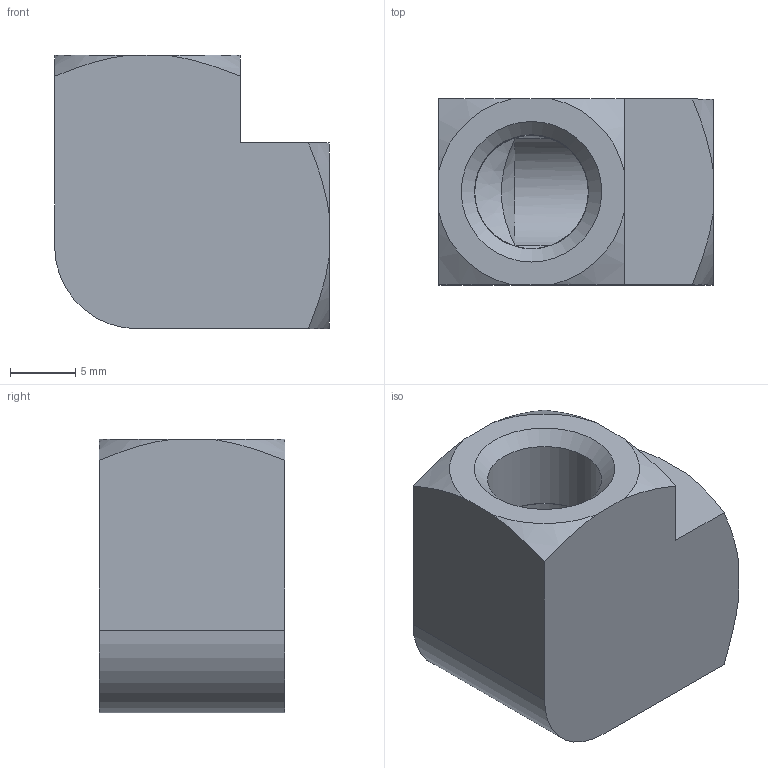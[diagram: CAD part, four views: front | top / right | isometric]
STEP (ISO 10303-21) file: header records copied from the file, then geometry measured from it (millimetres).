
FILE_DESCRIPTION(/* description */ (''),/* implementation_level */ '2;1');
FILE_NAME(/* name */ 'C:/Users/drich/Desktop/EL-18 v4.step',/* time_stamp */ '2020-02-09T11:05:54-06:00',/* author */ (''),/* organization */ (''),/* preprocessor_version */ 'ST-DEVELOPER v18',/* originating_system */ 'Autodesk Translation Framework v8.12.0.6',/* authorisation */ '');
FILE_SCHEMA (('AUTOMOTIVE_DESIGN { 1 0 10303 214 3 1 1 }'));
Length unit declared in the file: inch
Products named in the file (1): EL-18
Bounding box: 21.11 x 14.27 x 21.01 mm (x, y, z)
Volume: 3842.4 mm3; surface area: 2493.3 mm2
Topology: 1 solids, 1 shells, 37 faces, 98 edges, 65 vertices
Faces by surface type: cone 14, plane 12, cylinder 11
Full cylindrical faces by diameter (mm): 8.712 x2, 8.763 x2
Entity records: 1221 total; most frequent: CARTESIAN_POINT 268, ORIENTED_EDGE 196, DIRECTION 195, EDGE_CURVE 98, AXIS2_PLACEMENT_3D 80, VERTEX_POINT 65, EDGE_LOOP 41, FACE_OUTER_BOUND 37
